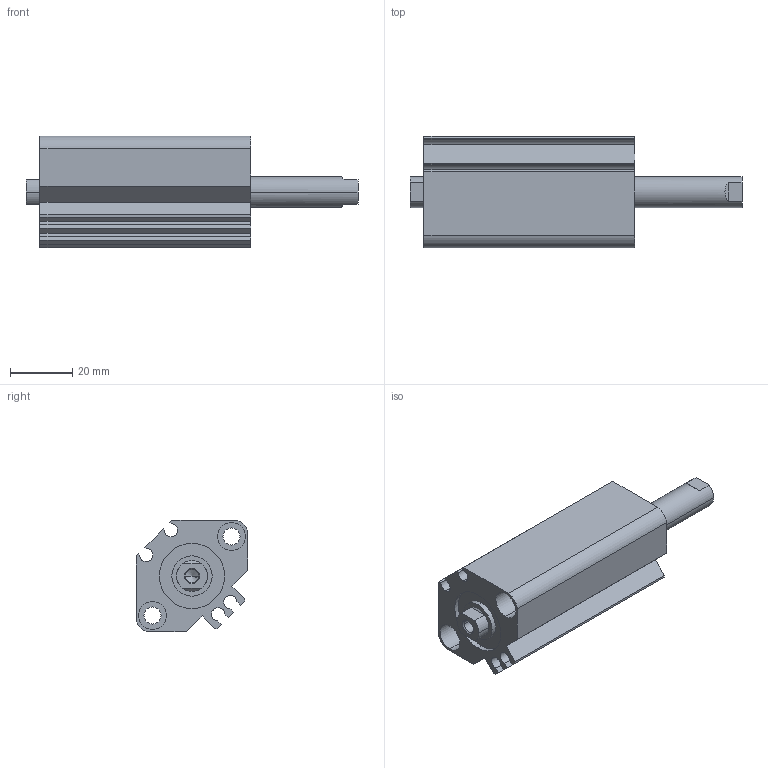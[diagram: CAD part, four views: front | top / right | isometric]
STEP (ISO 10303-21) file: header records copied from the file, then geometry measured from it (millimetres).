
FILE_DESCRIPTION (( 'STEP AP203' ), '1' );
FILE_NAME ('CCMB20-30F-P.STEP', '2020-08-05T11:06:54', ( '' ), ( '' ), 'SwSTEP 2.0', 'SolidWorks 2019', '' );
FILE_SCHEMA (( 'CONFIG_CONTROL_DESIGN' ));
Length unit declared in the file: millimetre
Products named in the file (1): CCMB20-30F-P
Bounding box: 107 x 36 x 36 mm (x, y, z)
Volume: 61446.7 mm3; surface area: 25348 mm2
Topology: 2 solids, 2 shells, 114 faces, 276 edges, 178 vertices
Faces by surface type: cylinder 52, plane 50, cone 12
Entity records: 3419 total; most frequent: DIRECTION 614, CARTESIAN_POINT 577, ORIENTED_EDGE 544, EDGE_CURVE 272, AXIS2_PLACEMENT_3D 231, VERTEX_POINT 178, LINE 152, VECTOR 152
